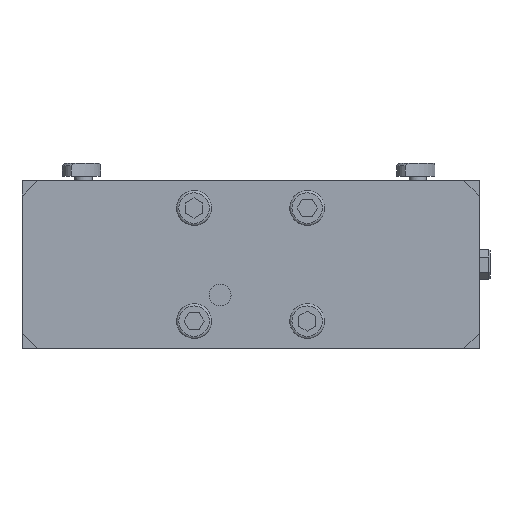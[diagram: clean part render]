
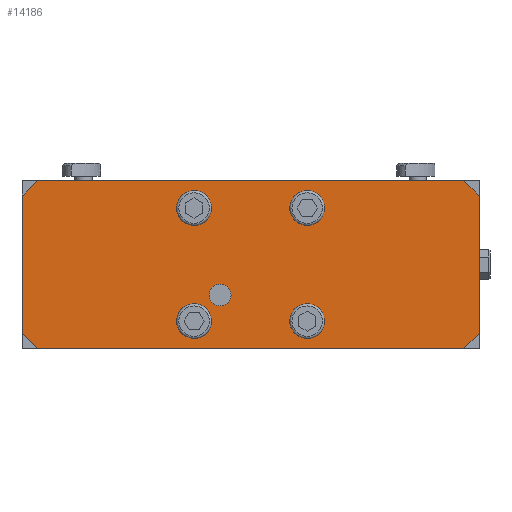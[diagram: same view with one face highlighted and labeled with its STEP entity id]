
A CAD part, front view. The second image highlights one B-rep face of the part: STEP entity #14186.
In plain terms, the highlighted planar face has unit normal (0, -1, 0).
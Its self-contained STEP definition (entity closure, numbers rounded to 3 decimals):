
#124 = CARTESIAN_POINT ( 'NONE',  ( -98., 0., 38.5 ) ) ;
#711 = ORIENTED_EDGE ( 'NONE', *, *, #11360, .F. ) ;
#871 = VERTEX_POINT ( 'NONE', #11443 ) ;
#914 = EDGE_CURVE ( 'NONE', #25761, #10395, #23263, .T. ) ;
#956 = CARTESIAN_POINT ( 'NONE',  ( 26., 0., 26. ) ) ;
#1028 = FACE_BOUND ( 'NONE', #1780, .T. ) ;
#1199 = VERTEX_POINT ( 'NONE', #9611 ) ;
#1780 = EDGE_LOOP ( 'NONE', ( #28300 ) ) ;
#1967 = CARTESIAN_POINT ( 'NONE',  ( 105., 0., 31.5 ) ) ;
#2178 = LINE ( 'NONE', #29388, #22097 ) ;
#2205 = ORIENTED_EDGE ( 'NONE', *, *, #35489, .F. ) ;
#2817 = CARTESIAN_POINT ( 'NONE',  ( 105., 0., -38.5 ) ) ;
#2969 = VECTOR ( 'NONE', #6436, 1000. ) ;
#3442 = ORIENTED_EDGE ( 'NONE', *, *, #31172, .T. ) ;
#3789 = DIRECTION ( 'NONE',  ( 0., -1., 0. ) ) ;
#3880 = DIRECTION ( 'NONE',  ( 0., 0., -1. ) ) ;
#4210 = CARTESIAN_POINT ( 'NONE',  ( 26., 0., -26. ) ) ;
#6142 = DIRECTION ( 'NONE',  ( 0., -1., 0. ) ) ;
#6196 = AXIS2_PLACEMENT_3D ( 'NONE', #7219, #10092, #31054 ) ;
#6436 = DIRECTION ( 'NONE',  ( -1., 0., 0. ) ) ;
#6732 = DIRECTION ( 'NONE',  ( -0.707, 0., -0.707 ) ) ;
#6765 = VECTOR ( 'NONE', #15526, 1000. ) ;
#7219 = CARTESIAN_POINT ( 'NONE',  ( -26., 0., -26. ) ) ;
#9489 = EDGE_CURVE ( 'NONE', #43430, #43430, #22580, .T. ) ;
#9611 = CARTESIAN_POINT ( 'NONE',  ( 98., 0., -38.5 ) ) ;
#9784 = EDGE_CURVE ( 'NONE', #29170, #29170, #18293, .T. ) ;
#9905 = LINE ( 'NONE', #2817, #31865 ) ;
#10092 = DIRECTION ( 'NONE',  ( 0., -1., 0. ) ) ;
#10395 = VERTEX_POINT ( 'NONE', #22792 ) ;
#10497 = VERTEX_POINT ( 'NONE', #12334 ) ;
#10563 = CARTESIAN_POINT ( 'NONE',  ( 105., 0., -31.5 ) ) ;
#10587 = VERTEX_POINT ( 'NONE', #124 ) ;
#11360 = EDGE_CURVE ( 'NONE', #10497, #29190, #2178, .T. ) ;
#11443 = CARTESIAN_POINT ( 'NONE',  ( -14., 0., -19. ) ) ;
#11600 = FACE_BOUND ( 'NONE', #43492, .T. ) ;
#11815 = DIRECTION ( 'NONE',  ( 0., 1., 0. ) ) ;
#12334 = CARTESIAN_POINT ( 'NONE',  ( 105., 0., 31.5 ) ) ;
#12482 = EDGE_CURVE ( 'NONE', #10587, #39177, #13596, .T. ) ;
#12739 = EDGE_CURVE ( 'NONE', #30297, #10587, #40344, .T. ) ;
#12825 = CARTESIAN_POINT ( 'NONE',  ( 20., 0., 26. ) ) ;
#13498 = VERTEX_POINT ( 'NONE', #20883 ) ;
#13596 = LINE ( 'NONE', #27250, #43601 ) ;
#14055 = DIRECTION ( 'NONE',  ( 0., -1., 0. ) ) ;
#14131 = EDGE_LOOP ( 'NONE', ( #40804 ) ) ;
#14186 = ADVANCED_FACE ( 'NONE', ( #31722, #1028, #25281, #11600, #35108, #14566 ), #25502, .F. ) ;
#14566 = FACE_OUTER_BOUND ( 'NONE', #27643, .T. ) ;
#14835 = ORIENTED_EDGE ( 'NONE', *, *, #34845, .F. ) ;
#15526 = DIRECTION ( 'NONE',  ( -0.707, 0., 0.707 ) ) ;
#15835 = ORIENTED_EDGE ( 'NONE', *, *, #25490, .T. ) ;
#17026 = CARTESIAN_POINT ( 'NONE',  ( -14., 0., -14. ) ) ;
#18032 = DIRECTION ( 'NONE',  ( -1., 0., 0. ) ) ;
#18196 = CIRCLE ( 'NONE', #23964, 6. ) ;
#18293 = CIRCLE ( 'NONE', #41822, 6. ) ;
#19077 = CARTESIAN_POINT ( 'NONE',  ( 105., 0., -31.5 ) ) ;
#19207 = DIRECTION ( 'NONE',  ( 0.707, 0., -0.707 ) ) ;
#19880 = CIRCLE ( 'NONE', #28443, 5. ) ;
#20883 = CARTESIAN_POINT ( 'NONE',  ( -26., 0., 20. ) ) ;
#21085 = ORIENTED_EDGE ( 'NONE', *, *, #34057, .T. ) ;
#21698 = AXIS2_PLACEMENT_3D ( 'NONE', #26727, #40545, #26072 ) ;
#21854 = CARTESIAN_POINT ( 'NONE',  ( 98., 0., 38.5 ) ) ;
#21928 = EDGE_LOOP ( 'NONE', ( #14835 ) ) ;
#22097 = VECTOR ( 'NONE', #25840, 1000. ) ;
#22580 = CIRCLE ( 'NONE', #6196, 6. ) ;
#22599 = CARTESIAN_POINT ( 'NONE',  ( -98., 0., -38.5 ) ) ;
#22792 = CARTESIAN_POINT ( 'NONE',  ( -98., 0., -38.5 ) ) ;
#23263 = LINE ( 'NONE', #22599, #28753 ) ;
#23964 = AXIS2_PLACEMENT_3D ( 'NONE', #4210, #3789, #31391 ) ;
#24004 = DIRECTION ( 'NONE',  ( 0., 0., -1. ) ) ;
#24044 = VERTEX_POINT ( 'NONE', #27595 ) ;
#24187 = LINE ( 'NONE', #37772, #30027 ) ;
#24708 = ORIENTED_EDGE ( 'NONE', *, *, #9489, .F. ) ;
#24836 = EDGE_LOOP ( 'NONE', ( #2205 ) ) ;
#25281 = FACE_BOUND ( 'NONE', #21928, .T. ) ;
#25490 = EDGE_CURVE ( 'NONE', #39177, #25761, #24187, .T. ) ;
#25502 = PLANE ( 'NONE',  #41553 ) ;
#25761 = VERTEX_POINT ( 'NONE', #32218 ) ;
#25840 = DIRECTION ( 'NONE',  ( 0., 0., -1. ) ) ;
#25964 = CARTESIAN_POINT ( 'NONE',  ( -105., 0., 31.5 ) ) ;
#26072 = DIRECTION ( 'NONE',  ( 0., 0., -1. ) ) ;
#26673 = DIRECTION ( 'NONE',  ( -1., 0., 0. ) ) ;
#26727 = CARTESIAN_POINT ( 'NONE',  ( -26., 0., 26. ) ) ;
#27209 = VECTOR ( 'NONE', #38750, 1000. ) ;
#27250 = CARTESIAN_POINT ( 'NONE',  ( -98., 0., 38.5 ) ) ;
#27595 = CARTESIAN_POINT ( 'NONE',  ( 26., 0., -20. ) ) ;
#27643 = EDGE_LOOP ( 'NONE', ( #43397, #42996, #15835, #39571, #42167, #3442, #711, #21085 ) ) ;
#28300 = ORIENTED_EDGE ( 'NONE', *, *, #9784, .F. ) ;
#28443 = AXIS2_PLACEMENT_3D ( 'NONE', #17026, #6142, #24004 ) ;
#28753 = VECTOR ( 'NONE', #19207, 1000. ) ;
#29170 = VERTEX_POINT ( 'NONE', #12825 ) ;
#29190 = VERTEX_POINT ( 'NONE', #10563 ) ;
#29388 = CARTESIAN_POINT ( 'NONE',  ( 105., 0., -38.5 ) ) ;
#30027 = VECTOR ( 'NONE', #3880, 1000. ) ;
#30297 = VERTEX_POINT ( 'NONE', #21854 ) ;
#31054 = DIRECTION ( 'NONE',  ( 1., 0., 0. ) ) ;
#31172 = EDGE_CURVE ( 'NONE', #1199, #29190, #31798, .T. ) ;
#31391 = DIRECTION ( 'NONE',  ( 0., 0., 1. ) ) ;
#31722 = FACE_BOUND ( 'NONE', #14131, .T. ) ;
#31798 = LINE ( 'NONE', #19077, #27209 ) ;
#31865 = VECTOR ( 'NONE', #26673, 1000. ) ;
#32146 = DIRECTION ( 'NONE',  ( 0., 0., 1. ) ) ;
#32218 = CARTESIAN_POINT ( 'NONE',  ( -105., 0., -31.5 ) ) ;
#32454 = LINE ( 'NONE', #1967, #6765 ) ;
#32458 = CARTESIAN_POINT ( 'NONE',  ( -20., 0., -26. ) ) ;
#34057 = EDGE_CURVE ( 'NONE', #10497, #30297, #32454, .T. ) ;
#34845 = EDGE_CURVE ( 'NONE', #24044, #24044, #18196, .T. ) ;
#35108 = FACE_BOUND ( 'NONE', #24836, .T. ) ;
#35489 = EDGE_CURVE ( 'NONE', #13498, #13498, #43773, .T. ) ;
#35766 = CARTESIAN_POINT ( 'NONE',  ( 105., 0., -38.5 ) ) ;
#36774 = CARTESIAN_POINT ( 'NONE',  ( 105., 0., 38.5 ) ) ;
#37772 = CARTESIAN_POINT ( 'NONE',  ( -105., 0., -38.5 ) ) ;
#38750 = DIRECTION ( 'NONE',  ( 0.707, 0., 0.707 ) ) ;
#38998 = EDGE_CURVE ( 'NONE', #1199, #10395, #9905, .T. ) ;
#39177 = VERTEX_POINT ( 'NONE', #25964 ) ;
#39571 = ORIENTED_EDGE ( 'NONE', *, *, #914, .T. ) ;
#39625 = EDGE_CURVE ( 'NONE', #871, #871, #19880, .T. ) ;
#40344 = LINE ( 'NONE', #36774, #2969 ) ;
#40545 = DIRECTION ( 'NONE',  ( 0., -1., 0. ) ) ;
#40804 = ORIENTED_EDGE ( 'NONE', *, *, #39625, .F. ) ;
#41553 = AXIS2_PLACEMENT_3D ( 'NONE', #35766, #11815, #32146 ) ;
#41822 = AXIS2_PLACEMENT_3D ( 'NONE', #956, #14055, #18032 ) ;
#42167 = ORIENTED_EDGE ( 'NONE', *, *, #38998, .F. ) ;
#42996 = ORIENTED_EDGE ( 'NONE', *, *, #12482, .T. ) ;
#43397 = ORIENTED_EDGE ( 'NONE', *, *, #12739, .T. ) ;
#43430 = VERTEX_POINT ( 'NONE', #32458 ) ;
#43492 = EDGE_LOOP ( 'NONE', ( #24708 ) ) ;
#43601 = VECTOR ( 'NONE', #6732, 1000. ) ;
#43773 = CIRCLE ( 'NONE', #21698, 6. ) ;
